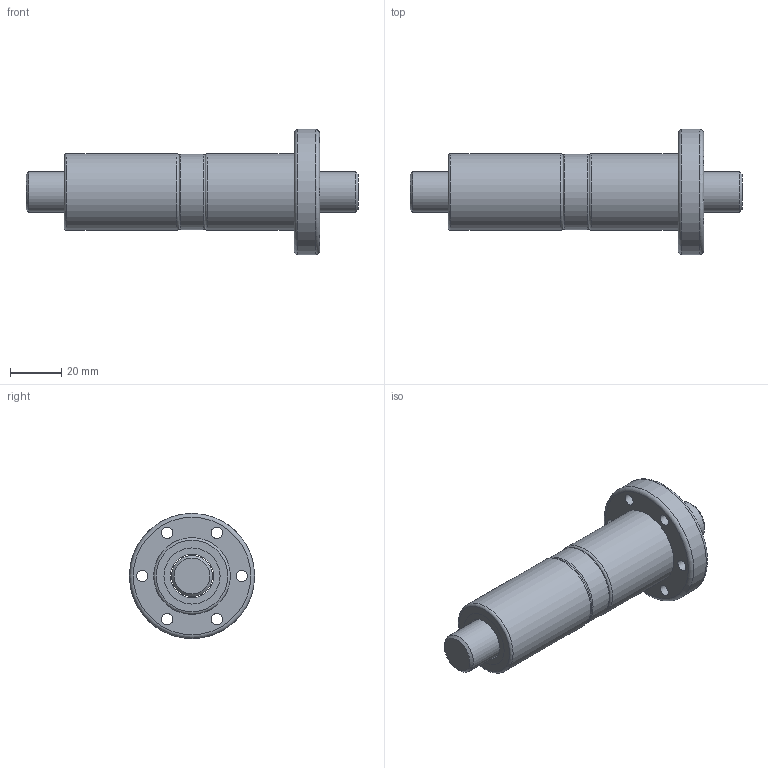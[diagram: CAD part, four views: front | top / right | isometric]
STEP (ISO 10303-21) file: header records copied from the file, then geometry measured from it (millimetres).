
FILE_DESCRIPTION(/* description */ (''),/* implementation_level */ '2;1');
FILE_NAME(/* name */ 'DFI1605',/* time_stamp */ '2007-10-26T11:48:51+08:00',/* author */ (''),/* organization */ (''),/* preprocessor_version */ 'ST-DEVELOPER v9',/* originating_system */ 'EDS PLM SOLUTIONS - UNIGRAPHICS NX 1.0',/* authorisation */ '');
FILE_SCHEMA (('CONFIG_CONTROL_DESIGN'));
Length unit declared in the file: millimetre
Products named in the file (1): FANNDA0400fj
Bounding box: 130 x 49 x 49 mm (x, y, z)
Volume: 83534.4 mm3; surface area: 30273.6 mm2
Topology: 6 solids, 6 shells, 56 faces, 119 edges, 78 vertices
Faces by surface type: cylinder 26, plane 21, torus 7, cone 2
Full cylindrical faces by diameter (mm): 4.5 x6, 8 x6, 16 x1, 17 x5, 22 x4, 29.5 x1, 30 x2, 49 x1
Entity records: 1392 total; most frequent: DIRECTION 246, CARTESIAN_POINT 225, ORIENTED_EDGE 144, AXIS2_PLACEMENT_3D 123, EDGE_LOOP 116, FACE_BOUND 93, EDGE_CURVE 72, VERTEX_POINT 66
